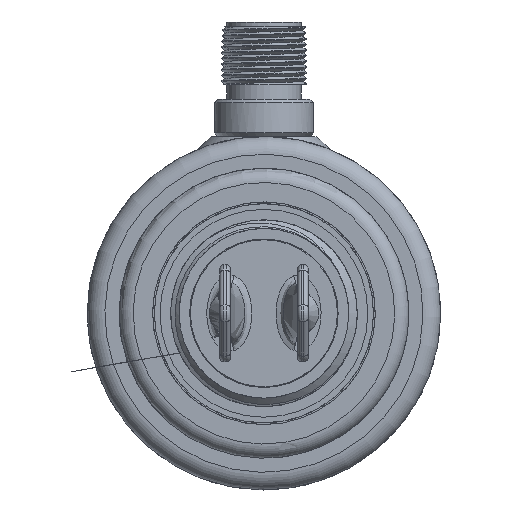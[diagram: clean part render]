
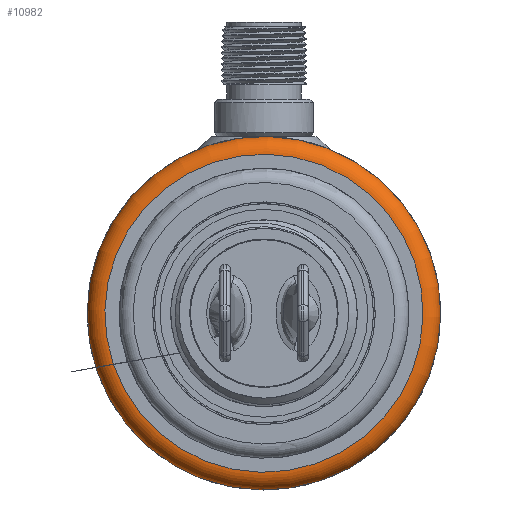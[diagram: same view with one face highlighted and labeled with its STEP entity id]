
A CAD part, front view. The second image highlights one B-rep face of the part: STEP entity #10982.
In plain terms, the highlighted toroidal (fillet/blend) face has major radius 22.5 mm and minor radius 2.5 mm.
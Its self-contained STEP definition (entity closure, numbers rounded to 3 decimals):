
#10982=ADVANCED_FACE('',(#22164,#22166),#22168,.T.);
#22164=FACE_BOUND('',#22165,.T.);
#22165=EDGE_LOOP('',(#25588,#25589));
#22166=FACE_OUTER_BOUND('',#22167,.T.);
#22167=EDGE_LOOP('',(#25590));
#22168=TOROIDAL_SURFACE('',#22169,22.5,2.5);
#22169=AXIS2_PLACEMENT_3D('',#22170,#22171,#22172);
#22170=CARTESIAN_POINT('',(-192.411,-45.962,-42.89));
#22171=DIRECTION('',(0.,1.,0.));
#22172=DIRECTION('',(-0.021,0.,-1.));
#25588=ORIENTED_EDGE('',*,*,#27129,.F.);
#25589=ORIENTED_EDGE('',*,*,#27130,.F.);
#25590=ORIENTED_EDGE('',*,*,#27131,.F.);
#27129=EDGE_CURVE('',#29371,#29372,#29373,.T.);
#27130=EDGE_CURVE('',#29372,#29371,#29374,.T.);
#27131=EDGE_CURVE('',#29375,#29375,#29376,.T.);
#29371=VERTEX_POINT('',#44717);
#29372=VERTEX_POINT('',#44718);
#29373=CIRCLE('',#44719,25.);
#29374=CIRCLE('',#44723,25.);
#29375=VERTEX_POINT('',#44727);
#29376=CIRCLE('',#44728,22.5);
#44717=CARTESIAN_POINT('',(-192.928,-45.962,-67.884));
#44718=CARTESIAN_POINT('',(-191.894,-45.962,-17.895));
#44719=AXIS2_PLACEMENT_3D('',#44720,#44721,#44722);
#44720=CARTESIAN_POINT('',(-192.411,-45.962,-42.89));
#44721=DIRECTION('',(0.,1.,0.));
#44722=DIRECTION('',(-0.021,0.,-1.));
#44723=AXIS2_PLACEMENT_3D('',#44724,#44725,#44726);
#44724=CARTESIAN_POINT('',(-192.411,-45.962,-42.89));
#44725=DIRECTION('',(0.,1.,0.));
#44726=DIRECTION('',(0.021,0.,1.));
#44727=CARTESIAN_POINT('',(-191.946,-48.462,-20.394));
#44728=AXIS2_PLACEMENT_3D('',#44729,#44730,#44731);
#44729=CARTESIAN_POINT('',(-192.411,-48.462,-42.89));
#44730=DIRECTION('',(0.,-1.,0.));
#44731=DIRECTION('',(-0.021,0.,-1.));
